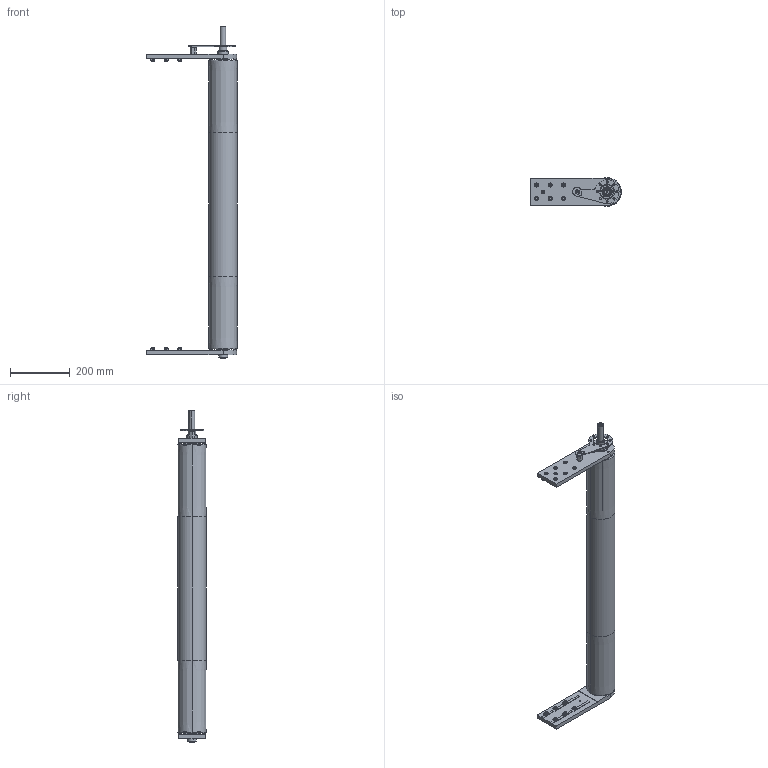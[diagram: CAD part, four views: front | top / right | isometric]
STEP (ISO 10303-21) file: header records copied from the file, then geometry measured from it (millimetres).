
FILE_DESCRIPTION (( 'STEP AP203' ), '1' );
FILE_NAME ('084.095.KD.44.940.STEP', '2019-10-22T07:20:07', ( 'Localadmin' ), ( 'Microsoft' ), 'SwSTEP 2.0', 'SolidWorks 2018', '' );
FILE_SCHEMA (( 'CONFIG_CONTROL_DESIGN' ));
Length unit declared in the file: millimetre
Products named in the file (15): 084.816.182_084.816.107<A macchina>; 084.095.KD.44.940; 084.812.003; 084.808.003_084.808.003; 084.802.027; 084.808.002_084.808.002; 084.807.005; 084.810.003; 084.812.001; 084.802.019_084.802.019; 084.802.034_084.802.034; 084.301.000 VITI ALUSIC_084.301.003; Circlip DIN 471 - 30 x 1.5_Circlip DIN 471 - 30 x 1.5; 084.302.000 DADI ALUSIC 13x13_084.302.004; CHIAVETTE_A 6x6x60 UNI 6604-69
Assembly tree (38 placements, depth 2):
  084.095.KD.44.940
    084.802.027
    084.807.005
    084.812.001
    084.802.034_084.802.034
    084.301.000 VITI ALUSIC_084.301.003  x12
    084.302.000 DADI ALUSIC 13x13_084.302.004  x12
    084.816.182_084.816.107<A macchina>
    084.812.003
    084.808.003_084.808.003
    084.808.002_084.808.002
    084.810.003  x2
    084.802.019_084.802.019
    Circlip DIN 471 - 30 x 1.5_Circlip DIN 471 - 30 x 1.5  x2
    CHIAVETTE_A 6x6x60 UNI 6604-69
Bounding box: 302.5 x 95 x 1108.5 mm (x, y, z)
Volume: 2651437.8 mm3; surface area: 1195437.5 mm2
Topology: 43 solids, 44 shells, 1023 faces, 2560 edges, 1663 vertices
Faces by surface type: plane 457, cylinder 341, torus 92, cone 76, bspline 48, sphere 9
Entity records: 22007 total; most frequent: CARTESIAN_POINT 4393, DIRECTION 3334, ORIENTED_EDGE 3132, EDGE_CURVE 1566, AXIS2_PLACEMENT_3D 1313, VERTEX_POINT 1020, EDGE_LOOP 734, CIRCLE 711
